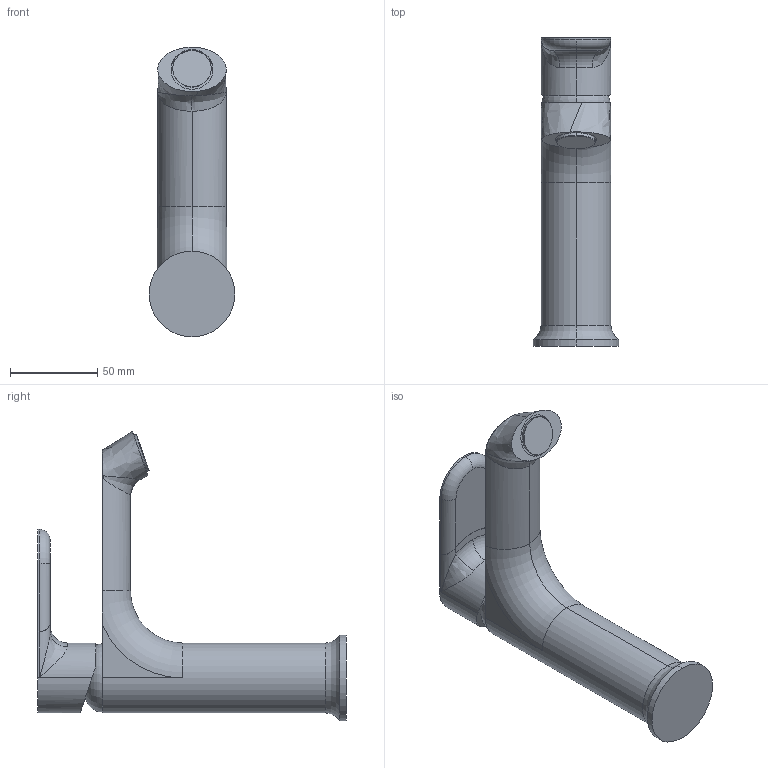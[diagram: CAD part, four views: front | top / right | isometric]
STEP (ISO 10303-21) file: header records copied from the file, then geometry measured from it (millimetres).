
FILE_DESCRIPTION (( 'STEP AP203' ), '1' );
FILE_NAME ('SL1500 SON.STEP', '2018-08-13T06:34:13', ( '' ), ( '' ), 'SwSTEP 2.0', 'SolidWorks 2018', '' );
FILE_SCHEMA (( 'CONFIG_CONTROL_DESIGN' ));
Length unit declared in the file: millimetre
Products named in the file (1): SL1500 SON
Bounding box: 49 x 176.42 x 165.69 mm (x, y, z)
Volume: 275286.7 mm3; surface area: 56672.7 mm2
Topology: 5 solids, 6 shells, 80 faces, 175 edges, 106 vertices
Faces by surface type: cylinder 31, plane 23, torus 13, bspline 13
Entity records: 3668 total; most frequent: CARTESIAN_POINT 1923, DIRECTION 352, ORIENTED_EDGE 346, EDGE_CURVE 173, AXIS2_PLACEMENT_3D 150, VERTEX_POINT 106, CIRCLE 82, EDGE_LOOP 81
